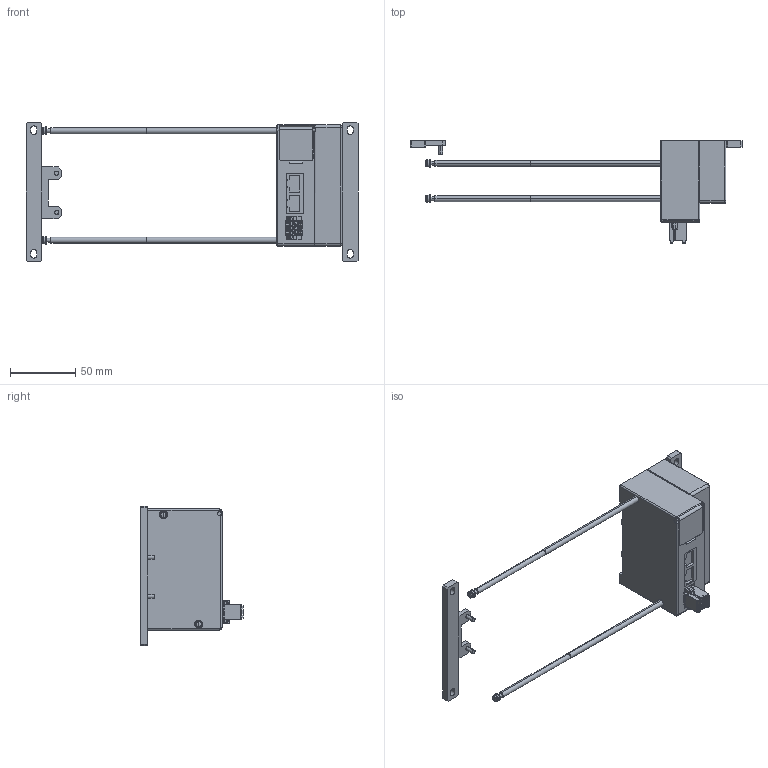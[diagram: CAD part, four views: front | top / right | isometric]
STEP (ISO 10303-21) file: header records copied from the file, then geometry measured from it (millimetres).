
FILE_DESCRIPTION( (''), '2;1');
FILE_NAME ('YS8EM3-8.stp','2022-12-01T14:46:09',(''),(''),'spGate 12.6.6','','');
FILE_SCHEMA (('AUTOMOTIVE_DESIGN'));
Length unit declared in the file: millimetre
Products named in the file (3): Assembly; YS8EM3-8-prt0; YS8EM3-8-prt1
Assembly tree (3 placements, depth 2):
  Assembly
    YS8EM3-8-prt0  x2
    YS8EM3-8-prt1
Bounding box: 255 x 78.8 x 107 mm (x, y, z)
Volume: 274282.1 mm3; surface area: 46297.6 mm2
Topology: 3 solids, 3 shells, 837 faces, 2151 edges, 1371 vertices
Faces by surface type: plane 501, cylinder 246, bspline 78, sphere 12
Entity records: 40461 total; most frequent: CARTESIAN_POINT 5625, ORIENTED_EDGE 3998, DIRECTION 3749, COLOUR_RGB 2780, PRESENTATION_STYLE_ASSIGNMENT 2780, STYLED_ITEM 2780, EDGE_CURVE 1999, DRAUGHTING_PRE_DEFINED_CURVE_FONT 1999
